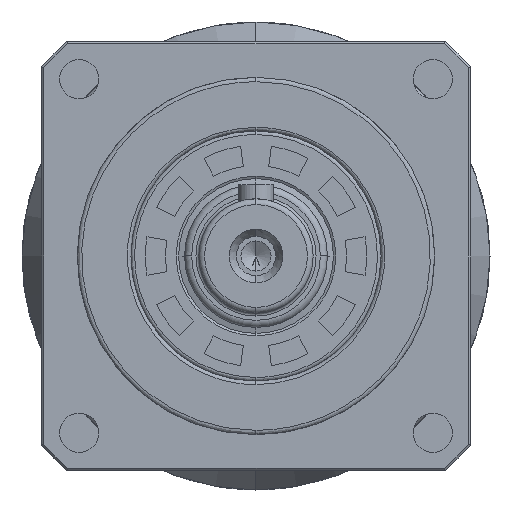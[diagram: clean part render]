
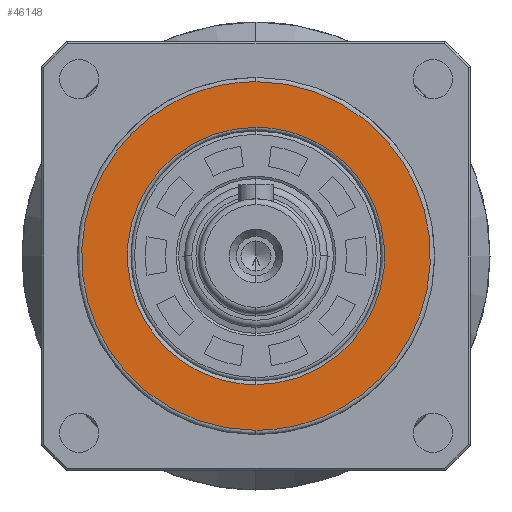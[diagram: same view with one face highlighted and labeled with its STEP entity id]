
A CAD part, left-side view. The second image highlights one B-rep face of the part: STEP entity #46148.
In plain terms, the highlighted planar face has unit normal (-1, 0, 0).
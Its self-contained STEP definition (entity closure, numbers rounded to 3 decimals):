
#1277 = EDGE_CURVE ( 'NONE', #8669, #30212, #48268, .T. ) ;
#1912 = DIRECTION ( 'NONE',  ( 0., 0., -1. ) ) ;
#6288 = FACE_OUTER_BOUND ( 'NONE', #22115, .T. ) ;
#8349 = CARTESIAN_POINT ( 'NONE',  ( 2.5, 0., 24.4 ) ) ;
#8669 = VERTEX_POINT ( 'NONE', #54593 ) ;
#13506 = CARTESIAN_POINT ( 'NONE',  ( 2.5, 48.8, 24.4 ) ) ;
#15209 = CARTESIAN_POINT ( 'NONE',  ( 2.5, 36., 18. ) ) ;
#17769 = CARTESIAN_POINT ( 'NONE',  ( 2.5, -48.8, 24.4 ) ) ;
#17774 = CARTESIAN_POINT ( 'NONE',  ( 2.5, 0., 24.4 ) ) ;
#17912 = EDGE_CURVE ( 'NONE', #52015, #41016, #61792, .T. ) ;
#20496 = CARTESIAN_POINT ( 'NONE',  ( 2.5, 0., -24.4 ) ) ;
#22115 = EDGE_LOOP ( 'NONE', ( #53059, #53774 ) ) ;
#25964 = CARTESIAN_POINT ( 'NONE',  ( 2.5, 0., 18. ) ) ;
#28560 = CARTESIAN_POINT ( 'NONE',  ( 2.5, -48.8, -24.4 ) ) ;
#30212 = VERTEX_POINT ( 'NONE', #32635 ) ;
#31345 = CARTESIAN_POINT ( 'NONE',  ( 2.5, 36., -18. ) ) ;
#32635 = CARTESIAN_POINT ( 'NONE',  ( 2.5, 0., 18. ) ) ;
#33915 = DIRECTION ( 'NONE',  ( 1., 0., 0. ) ) ;
#35012 = CARTESIAN_POINT ( 'NONE',  ( 2.5, 48.8, -24.4 ) ) ;
#36047 = ORIENTED_EDGE ( 'NONE', *, *, #1277, .F. ) ;
#39090 = PLANE ( 'NONE',  #45206 ) ;
#40411 = CARTESIAN_POINT ( 'NONE',  ( 2.5, 0., -24.4 ) ) ;
#41016 = VERTEX_POINT ( 'NONE', #17774 ) ;
#41359 = EDGE_CURVE ( 'NONE', #30212, #8669, #56942, .T. ) ;
#45206 = AXIS2_PLACEMENT_3D ( 'NONE', #65761, #33915, #1912 ) ;
#45616 = EDGE_LOOP ( 'NONE', ( #67961, #36047 ) ) ;
#46148 = ADVANCED_FACE ( 'NONE', ( #6288, #47235 ), #39090, .F. ) ;
#47235 = FACE_BOUND ( 'NONE', #45616, .T. ) ;
#47841 =( BOUNDED_CURVE ( )  B_SPLINE_CURVE ( 3, ( #55118, #17769, #28560, #65784 ),
 .UNSPECIFIED., .F., .F. ) 
 B_SPLINE_CURVE_WITH_KNOTS ( ( 4, 4 ),
 ( 0., 1. ),
 .UNSPECIFIED. ) 
 CURVE ( )  GEOMETRIC_REPRESENTATION_ITEM ( )  RATIONAL_B_SPLINE_CURVE ( ( 1., 0.333, 0.333, 1. ) ) 
 REPRESENTATION_ITEM ( '' )  );
#48268 =( BOUNDED_CURVE ( )  B_SPLINE_CURVE ( 3, ( #62471, #62925, #63001, #62413 ),
 .UNSPECIFIED., .F., .F. ) 
 B_SPLINE_CURVE_WITH_KNOTS ( ( 4, 4 ),
 ( 0., 1. ),
 .UNSPECIFIED. ) 
 CURVE ( )  GEOMETRIC_REPRESENTATION_ITEM ( )  RATIONAL_B_SPLINE_CURVE ( ( 1., 0.333, 0.333, 1. ) ) 
 REPRESENTATION_ITEM ( '' )  );
#52015 = VERTEX_POINT ( 'NONE', #20496 ) ;
#53059 = ORIENTED_EDGE ( 'NONE', *, *, #17912, .F. ) ;
#53774 = ORIENTED_EDGE ( 'NONE', *, *, #57819, .F. ) ;
#54593 = CARTESIAN_POINT ( 'NONE',  ( 2.5, 0., -18. ) ) ;
#55118 = CARTESIAN_POINT ( 'NONE',  ( 2.5, 0., 24.4 ) ) ;
#56942 =( BOUNDED_CURVE ( )  B_SPLINE_CURVE ( 3, ( #25964, #15209, #31345, #68536 ),
 .UNSPECIFIED., .F., .F. ) 
 B_SPLINE_CURVE_WITH_KNOTS ( ( 4, 4 ),
 ( 0., 1. ),
 .UNSPECIFIED. ) 
 CURVE ( )  GEOMETRIC_REPRESENTATION_ITEM ( )  RATIONAL_B_SPLINE_CURVE ( ( 1., 0.333, 0.333, 1. ) ) 
 REPRESENTATION_ITEM ( '' )  );
#57819 = EDGE_CURVE ( 'NONE', #41016, #52015, #47841, .T. ) ;
#61792 =( BOUNDED_CURVE ( )  B_SPLINE_CURVE ( 3, ( #40411, #35012, #13506, #8349 ),
 .UNSPECIFIED., .F., .F. ) 
 B_SPLINE_CURVE_WITH_KNOTS ( ( 4, 4 ),
 ( 0., 1. ),
 .UNSPECIFIED. ) 
 CURVE ( )  GEOMETRIC_REPRESENTATION_ITEM ( )  RATIONAL_B_SPLINE_CURVE ( ( 1., 0.333, 0.333, 1. ) ) 
 REPRESENTATION_ITEM ( '' )  );
#62413 = CARTESIAN_POINT ( 'NONE',  ( 2.5, 0., 18. ) ) ;
#62471 = CARTESIAN_POINT ( 'NONE',  ( 2.5, 0., -18. ) ) ;
#62925 = CARTESIAN_POINT ( 'NONE',  ( 2.5, -36., -18. ) ) ;
#63001 = CARTESIAN_POINT ( 'NONE',  ( 2.5, -36., 18. ) ) ;
#65761 = CARTESIAN_POINT ( 'NONE',  ( 2.5, 18., 0. ) ) ;
#65784 = CARTESIAN_POINT ( 'NONE',  ( 2.5, 0., -24.4 ) ) ;
#67961 = ORIENTED_EDGE ( 'NONE', *, *, #41359, .F. ) ;
#68536 = CARTESIAN_POINT ( 'NONE',  ( 2.5, 0., -18. ) ) ;
